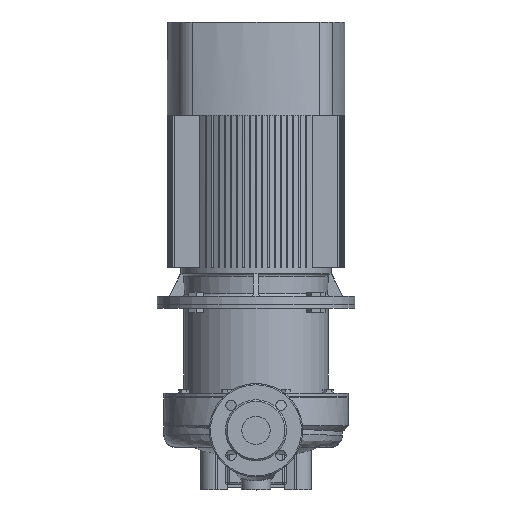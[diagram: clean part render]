
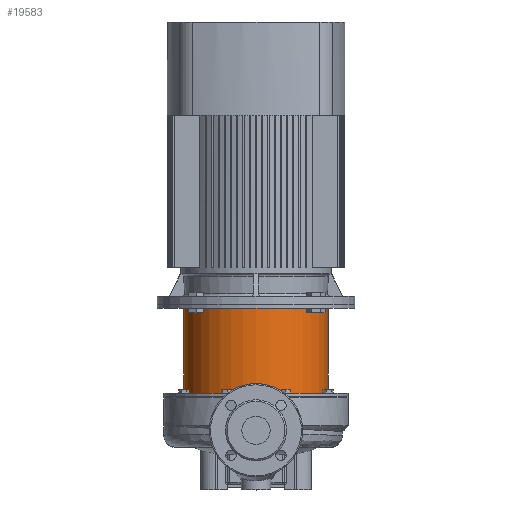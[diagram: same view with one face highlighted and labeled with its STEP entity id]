
A CAD part, top view. The second image highlights one B-rep face of the part: STEP entity #19583.
In plain terms, the highlighted cylindrical face has radius 128 mm (diameter 256 mm), a partial arc.
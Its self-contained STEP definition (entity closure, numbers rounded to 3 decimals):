
#196 = DIRECTION ( 'NONE',  ( 1., 0., 0. ) ) ;
#343 = AXIS2_PLACEMENT_3D ( 'NONE', #7047, #4789, #13510 ) ;
#1389 = EDGE_CURVE ( 'NONE', #26351, #15157, #4186, .T. ) ;
#1988 = VERTEX_POINT ( 'NONE', #9853 ) ;
#3577 = EDGE_LOOP ( 'NONE', ( #7453, #9863, #19035, #9689 ) ) ;
#4186 = CIRCLE ( 'NONE', #343, 128. ) ;
#4789 = DIRECTION ( 'NONE',  ( 0., 0., 1. ) ) ;
#6811 = FACE_OUTER_BOUND ( 'NONE', #3577, .T. ) ;
#7047 = CARTESIAN_POINT ( 'NONE',  ( 0., 0., -156. ) ) ;
#7119 = CYLINDRICAL_SURFACE ( 'NONE', #25128, 128. ) ;
#7453 = ORIENTED_EDGE ( 'NONE', *, *, #18100, .F. ) ;
#9185 = DIRECTION ( 'NONE',  ( 1., 0., 0. ) ) ;
#9689 = ORIENTED_EDGE ( 'NONE', *, *, #21584, .F. ) ;
#9853 = CARTESIAN_POINT ( 'NONE',  ( 128., 0., -6. ) ) ;
#9863 = ORIENTED_EDGE ( 'NONE', *, *, #1389, .T. ) ;
#11056 = EDGE_CURVE ( 'NONE', #15157, #1988, #21261, .T. ) ;
#11104 = CARTESIAN_POINT ( 'NONE',  ( -128., 0., -156. ) ) ;
#13510 = DIRECTION ( 'NONE',  ( 1., 0., 0. ) ) ;
#14835 = CARTESIAN_POINT ( 'NONE',  ( 128., 0., -156. ) ) ;
#14870 = CARTESIAN_POINT ( 'NONE',  ( -128., 0., 14.36 ) ) ;
#15157 = VERTEX_POINT ( 'NONE', #14835 ) ;
#16271 = CARTESIAN_POINT ( 'NONE',  ( 0., 0., -6. ) ) ;
#16312 = DIRECTION ( 'NONE',  ( 0., 0., 1. ) ) ;
#17329 = VERTEX_POINT ( 'NONE', #21542 ) ;
#17433 = DIRECTION ( 'NONE',  ( 0., 0., 1. ) ) ;
#18100 = EDGE_CURVE ( 'NONE', #26351, #17329, #22251, .T. ) ;
#18851 = CARTESIAN_POINT ( 'NONE',  ( 128., 0., 14.36 ) ) ;
#19035 = ORIENTED_EDGE ( 'NONE', *, *, #11056, .T. ) ;
#19583 = ADVANCED_FACE ( 'NONE', ( #6811 ), #7119, .T. ) ;
#21261 = LINE ( 'NONE', #18851, #23258 ) ;
#21542 = CARTESIAN_POINT ( 'NONE',  ( -128., 0., -6. ) ) ;
#21584 = EDGE_CURVE ( 'NONE', #17329, #1988, #23231, .T. ) ;
#22251 = LINE ( 'NONE', #14870, #28039 ) ;
#23070 = CARTESIAN_POINT ( 'NONE',  ( 0., 0., 14.36 ) ) ;
#23231 = CIRCLE ( 'NONE', #29480, 128. ) ;
#23258 = VECTOR ( 'NONE', #16312, 1000. ) ;
#25128 = AXIS2_PLACEMENT_3D ( 'NONE', #23070, #25465, #196 ) ;
#25465 = DIRECTION ( 'NONE',  ( 0., 0., 1. ) ) ;
#26351 = VERTEX_POINT ( 'NONE', #11104 ) ;
#28039 = VECTOR ( 'NONE', #17433, 1000. ) ;
#29480 = AXIS2_PLACEMENT_3D ( 'NONE', #16271, #29668, #9185 ) ;
#29668 = DIRECTION ( 'NONE',  ( 0., 0., 1. ) ) ;
